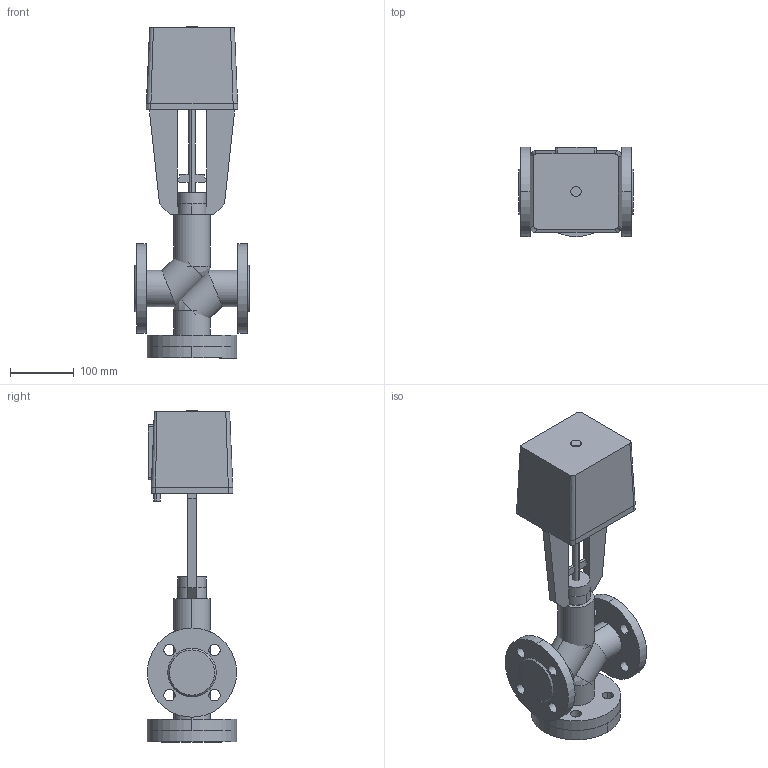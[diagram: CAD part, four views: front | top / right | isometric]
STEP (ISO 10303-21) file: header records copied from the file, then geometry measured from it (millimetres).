
FILE_DESCRIPTION(/* description */ (''),/* implementation_level */ '2;1');
FILE_NAME(/* name */ 'ТРК DN32 PN 2.5 МПа LEA 1200',/* time_stamp */ '2026-07-14T23:09:01+03:00',/* author */ (''),/* organization */ (''),/* preprocessor_version */ 'ST-DEVELOPER v20',/* originating_system */ '',/* authorisation */ '');
FILE_SCHEMA (('AP242_MANAGED_MODEL_BASED_3D_ENGINEERING_MIM_LF { 1 0 10303 442 1 1 4 }'));
Length unit declared in the file: millimetre
Products named in the file (14): TopLevelAssembly; Выдавливание; Модификатор; Модификатор_1; Выдавливание_
1; Выдавливание_
2; Вращение; Выдавливание_
3; Выдавливание_
4; 1600; Переход; Объемная геометрия 
присоединена; Полый Выдавливание; Объемная геометрия 
присоединена_1
Assembly tree (13 placements, depth 2):
  TopLevelAssembly
    Выдавливание
    Модификатор
    Модификатор_1
    Выдавливание_
1
    Выдавливание_
2
    Вращение
    Выдавливание_
3
    Выдавливание_
4
    1600
    Переход
    Объемная геометрия 
присоединена
    Полый Выдавливание
    Объемная геометрия 
присоединена_1
Bounding box: 180 x 140 x 521 mm (x, y, z)
Volume: 4363308.8 mm3; surface area: 453533.4 mm2
Topology: 18 solids, 18 shells, 159 faces, 366 edges, 240 vertices
Faces by surface type: plane 77, cylinder 70, bspline 8, cone 4
Entity records: 5155 total; most frequent: CARTESIAN_POINT 972, DIRECTION 882, ORIENTED_EDGE 716, EDGE_CURVE 358, AXIS2_PLACEMENT_3D 346, VERTEX_POINT 240, EDGE_LOOP 194, LINE 190
